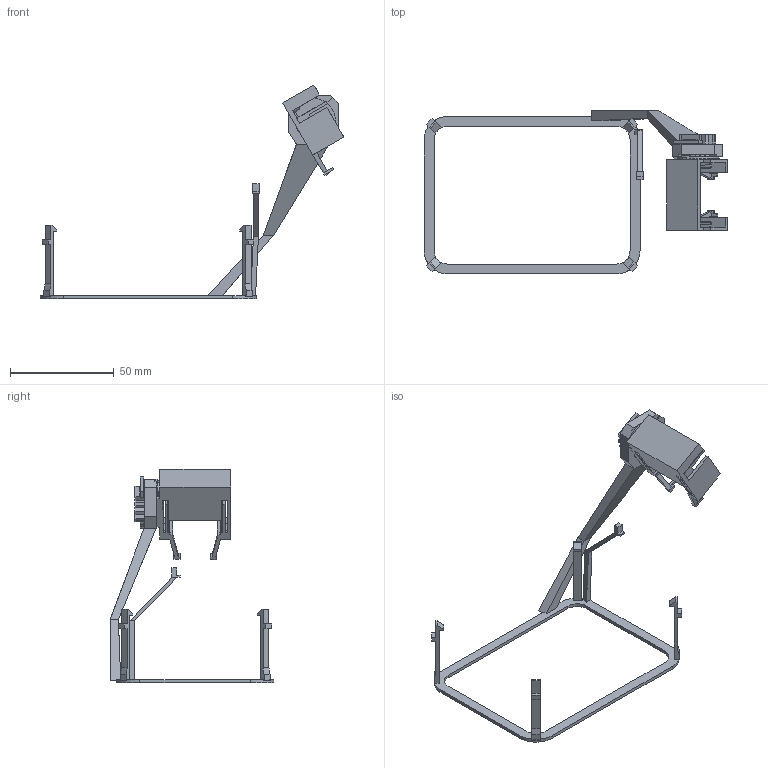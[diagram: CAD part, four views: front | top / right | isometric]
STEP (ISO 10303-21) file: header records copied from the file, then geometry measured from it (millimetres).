
FILE_DESCRIPTION(('Open CASCADE Model'),'2;1');
FILE_NAME('Open CASCADE Shape Model','2026-10-14T02:03:17',('Author'),( 'Open CASCADE'),'Open CASCADE STEP processor 8.0','build123d', 'Unknown');
FILE_SCHEMA(('AUTOMOTIVE_DESIGN { 1 0 10303 214 1 1 1 1 }'));
Length unit declared in the file: millimetre
Products named in the file (1): COMPOUND
Bounding box: 146.46 x 78.95 x 103.01 mm (x, y, z)
Volume: 15389.4 mm3; surface area: 17564.9 mm2
Topology: 3 solids, 3 shells, 545 faces, 1586 edges, 1052 vertices
Faces by surface type: plane 490, cylinder 41, bspline 14
Full cylindrical faces by diameter (mm): 2.6 x4, 4.4 x4, 12.9 x1
Entity records: 37647 total; most frequent: CARTESIAN_POINT 7869, DIRECTION 4862, LINE 3554, VECTOR 3554, ORIENTED_EDGE 3172, PCURVE 3172, DEFINITIONAL_REPRESENTATION 3172, EDGE_CURVE 1586
